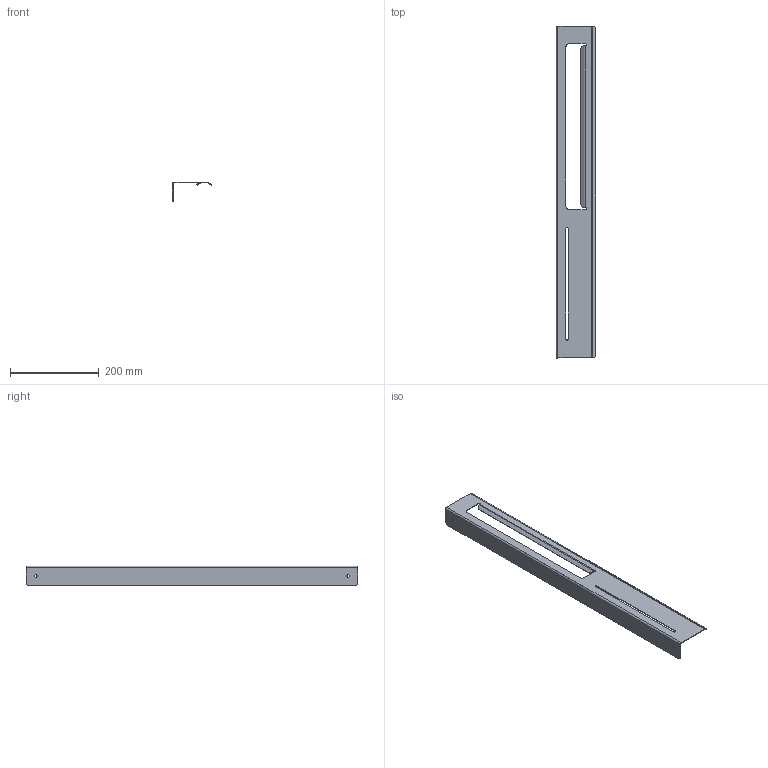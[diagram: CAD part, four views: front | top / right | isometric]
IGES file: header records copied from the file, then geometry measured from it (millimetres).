
Start section: IGES file generated by C3D Converter 1.5 translator by C3D Labs., translator version IGESOUT-5.1.
Global section: file name: D:\×åðòåæè èçäåëèé Âàííà 2023\Ïîëêè Simple Íîâûå\3D\×åðòåæè 22.07.2023\3D\S²MPLE_2_750_P375.igs; preprocessor: 1.0; author: a.kalenyk83@gmail.com; organization: unknown; date: -17770622:111820; units: millimetre
Bounding box: 88.5 x 750 x 45 mm (x, y, z)
Volume: 128210.9 mm3; surface area: 175680.7 mm2
Topology: 1 solids, 1 shells, 52 faces, 126 edges, 76 vertices
Faces by surface type: bspline 30, revolution 22
